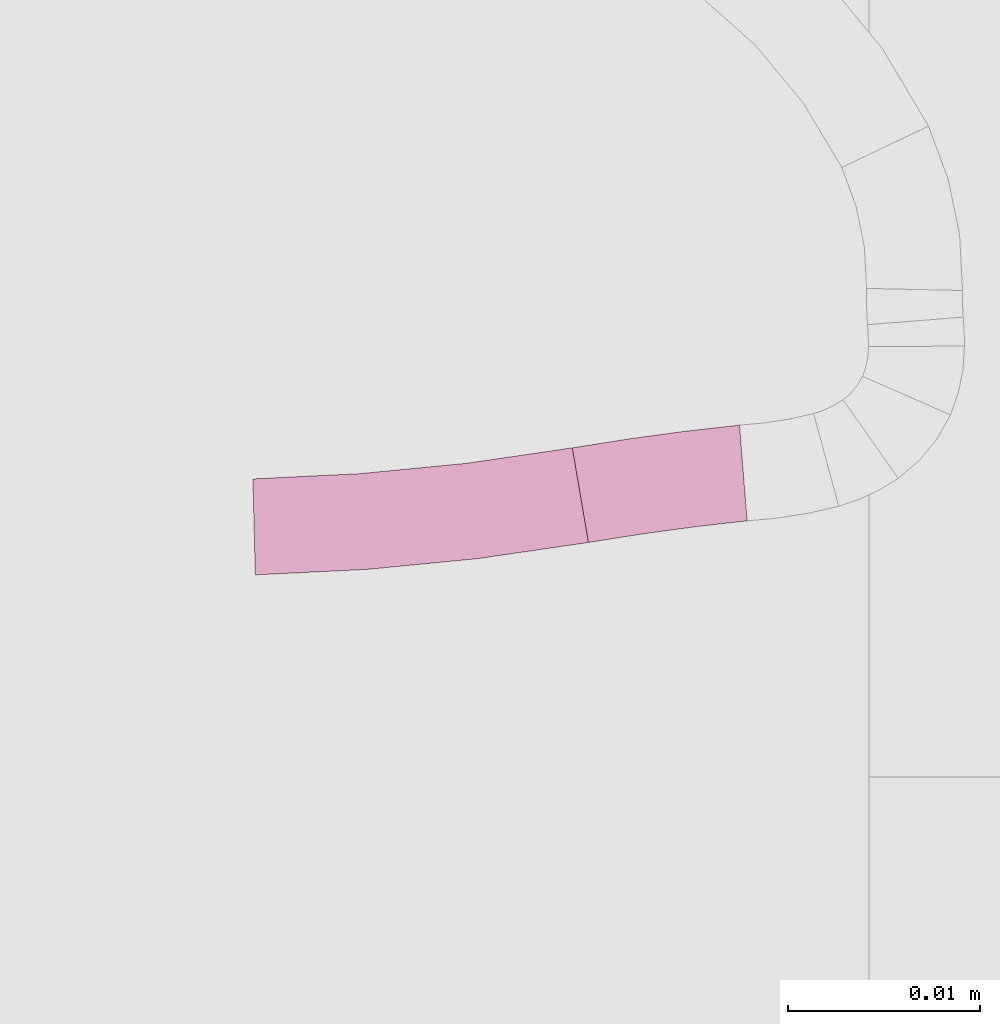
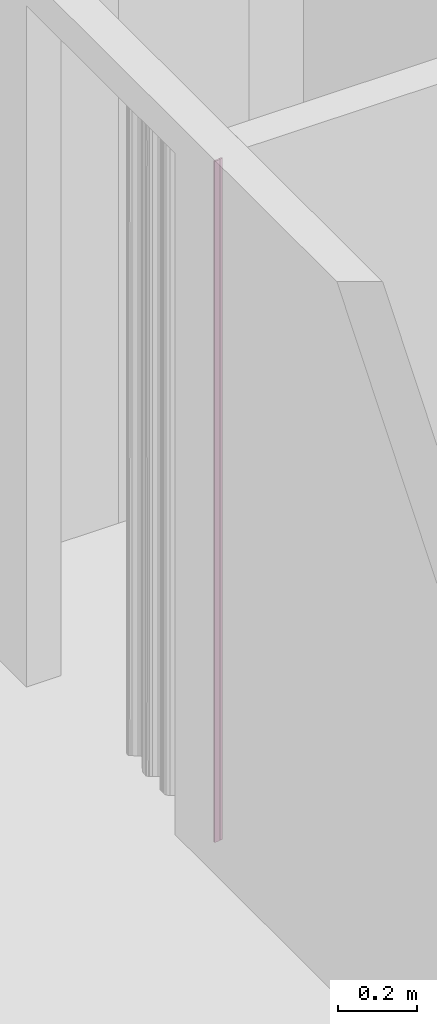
# One storey, part 263 of 418: 2 furnishings.
"""IFC2X3 building model written with IfcOpenShell, lengths in millimetres."""

from ifc_helpers import new_model, entity, si_unit, converted_unit, derived_unit, money_unit, point, direction, frame, frame_2d, origin_with_axes, place, context, subcontext, project, spatial, polyline, circle_curve, parameter, trimmed, segment, composite_curve, outline, extrude, material, type_object, element, save


model = new_model("IFC2X3")

# Units and contexts
model_context = context("Model", 3, precision=0.01, world=origin_with_axes(), true_north=direction((0.0, 1.0)))
body_context = subcontext(model_context, "Body", "Model", "MODEL_VIEW")
ifc_project = project(units=[si_unit("LENGTHUNIT", "METRE", prefix="MILLI"), si_unit("AREAUNIT", "SQUARE_METRE"), si_unit("VOLUMEUNIT", "CUBIC_METRE"), converted_unit("PLANEANGLEUNIT", "DEGREE", entity("IfcPlaneAngleMeasure", 0.0174532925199), si_unit("PLANEANGLEUNIT", "RADIAN"), dimensions=[0, 0, 0, 0, 0, 0, 0]), si_unit("SOLIDANGLEUNIT", "STERADIAN"), money_unit("EUR"), converted_unit("TIMEUNIT", "Year", entity("IfcTimeMeasure", 31556926.0), si_unit("TIMEUNIT", "SECOND"), dimensions=[0, 0, 1, 0, 0, 0, 0]), si_unit("MASSUNIT", "GRAM", prefix="KILO"), si_unit("THERMODYNAMICTEMPERATUREUNIT", "DEGREE_CELSIUS"), si_unit("LUMINOUSINTENSITYUNIT", "LUMEN"), si_unit("ENERGYUNIT", "JOULE", prefix="MEGA"), derived_unit("THERMALCONDUCTANCEUNIT", [(si_unit("POWERUNIT", "WATT"), 1), (si_unit("LENGTHUNIT", "METRE"), -1), (si_unit("THERMODYNAMICTEMPERATUREUNIT", "KELVIN"), -1)]), derived_unit("SPECIFICHEATCAPACITYUNIT", [(si_unit("ENERGYUNIT", "JOULE"), 1), (si_unit("MASSUNIT", "GRAM", prefix="KILO"), -1), (si_unit("THERMODYNAMICTEMPERATUREUNIT", "KELVIN"), -1)]), derived_unit("MASSDENSITYUNIT", [(si_unit("MASSUNIT", "GRAM", prefix="KILO"), 1), (si_unit("VOLUMEUNIT", "CUBIC_METRE"), -1)])], contexts=[model_context])

# Site, building, storey
site_placement = place(None, origin_with_axes())
site = spatial("IfcSite", under=ifc_project, at=site_placement, Name="Paldiski mnt 245/1, Tallinn, Harjumaa", CompositionType="COMPLEX")
building_placement = place(site_placement, origin_with_axes())
building = spatial("IfcBuilding", under=site, at=building_placement, Name="RKAS Hoone üldnimetus (kasutust iseloomustav) -> IFC Project Manager -> SOLIBRI", CompositionType="ELEMENT")
storey_placement = place(building_placement, origin_with_axes())
storey = spatial("IfcBuildingStorey", under=building, at=storey_placement, Name="Esimene korrus", CompositionType="ELEMENT", Elevation=0.0)

# Furnishings
ifc_material = material(Name="KON-00_GENEERILINE - KONSTRUKTSIOON")
furniture_type = type_object("IfcFurnitureType", Name="KON-00_GENEERILINE - KONSTRUKTSIOON 5", AssemblyPlace="NOTDEFINED")
furnishing_1_placement = place(storey_placement, frame((-45029.1494214, -1441.66801605, 0.0), z_axis=(0.0, 0.0, 1.0), x_axis=(-0.994851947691, -0.101339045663, 0.0)))
element("IfcFurnishingElement", 1, at=furnishing_1_placement, inside=storey, type_object=furniture_type, material=ifc_material, Name="SS-70", context=body_context, shape_type="SweptSolid", body=[
    extrude(outline(composite_curve([segment(trimmed(circle_curve(frame_2d((0.0, 130.577301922), x_axis=(0.0, -1.0)), 130.577301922), [point((0.0, 0.0)), parameter(0.0)], [point((8.78440739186, 0.2958145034)), parameter(3.85740766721)], True, "CARTESIAN"), True, "CONTINUOUS"), segment(polyline([(8.78440739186, 0.2958145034), (8.44795565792, 5.28448168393)]), True, "CONTINUOUS"), segment(trimmed(circle_curve(frame_2d((0.0, 130.577301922), x_axis=(0.00090224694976, -0.999999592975)), 125.577301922), [point((8.44795565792, 5.28448168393)), parameter(3.80567446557)], [point((0.113301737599, 5.00005111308)), parameter(0.0)], False, "CARTESIAN"), True, "CONTINUOUS"), segment(polyline([(0.113301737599, 5.00005111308), (0.0, 0.0)]), True, "CONTINUOUS")], self_intersect=False)), origin_with_axes(), (0.0, 0.0, 1.0), 2100.0),
])
furnishing_2_placement = place(storey_placement, frame((-45054.494526, -1444.46968187, 0.0), z_axis=(0.0, 0.0, 1.0), x_axis=(0.999689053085, 0.0249358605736, 0.0)))
element("IfcFurnishingElement", 2, at=furnishing_2_placement, inside=storey, type_object=furniture_type, material=ifc_material, Name="SS-71", context=body_context, shape_type="SweptSolid", body=[
    extrude(outline(composite_curve([segment(trimmed(circle_curve(frame_2d((0.0, 116.225501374), x_axis=(0.0, -1.0)), 121.225501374), [point((0.0, -5.0)), parameter(0.0)], [point((17.3881490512, -3.74647225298)), parameter(8.24674482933)], True, "CARTESIAN"), True, "CONTINUOUS"), segment(polyline([(17.3881490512, -3.74647225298), (16.6710499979, 1.2018374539)]), True, "CONTINUOUS"), segment(trimmed(circle_curve(frame_2d((0.0, 116.225501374), x_axis=(0.0, -1.0)), 116.225501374), [point((16.6710499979, 1.2018374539)), parameter(8.24678613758)], [point((0.0, 0.0)), parameter(0.0)], False, "CARTESIAN"), True, "CONTINUOUS"), segment(polyline([(0.0, 0.0), (0.0, -5.0)]), True, "CONTINUOUS")], self_intersect=False)), origin_with_axes(), (0.0, 0.0, 1.0), 2100.0),
])

save(model, "model.ifc")
